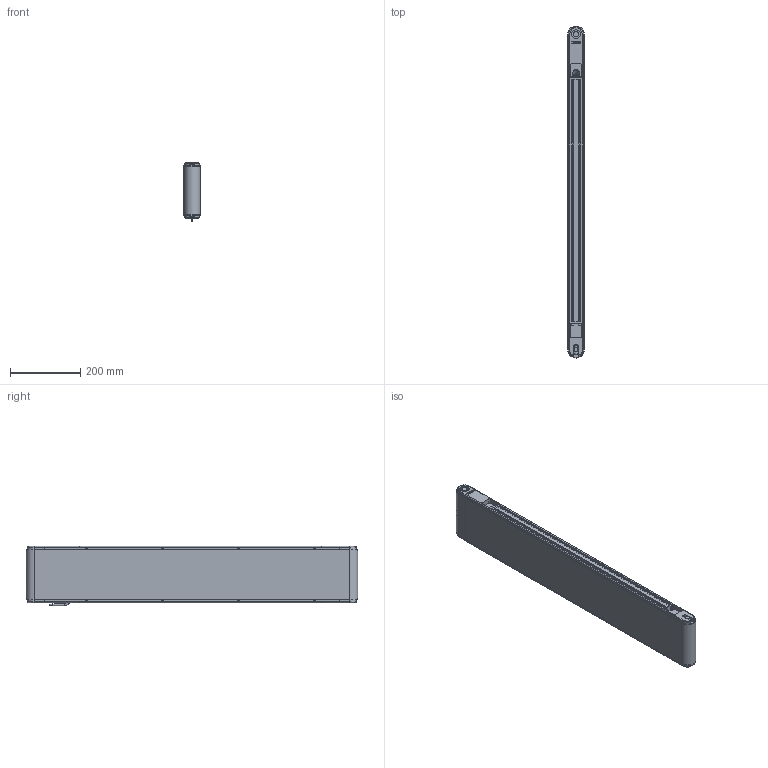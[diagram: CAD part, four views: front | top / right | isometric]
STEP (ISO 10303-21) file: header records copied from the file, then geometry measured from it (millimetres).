
FILE_DESCRIPTION(/* description */ (''),/* implementation_level */ '2;1');
FILE_NAME(/* name */ 'G:\DATEN\CAD\Förderband\Marketing\3D-Modelle (Standard)\FR-40-160\FR-40-160-900-K.stp',/* time_stamp */ '2019-05-08T09:08:46+02:00',/* author */ ('melanie.ochs'),/* organization */ (''),/* preprocessor_version */ 'ST-DEVELOPER v17',/* originating_system */ 'Autodesk Inventor 2019',/* authorisation */ '');
FILE_SCHEMA (('CONFIG_CONTROL_DESIGN'));
Length unit declared in the file: centimetre
Products named in the file (1): FR-40-160-900-K
Bounding box: 46.6 x 946.6 x 168.53 mm (x, y, z)
Volume: 2432822.2 mm3; surface area: 1072682.6 mm2
Topology: 6 solids, 25 shells, 1008 faces, 2750 edges, 1835 vertices
Faces by surface type: plane 515, cylinder 280, bspline 122, cone 66, torus 25
Full cylindrical faces by diameter (mm): 2 x2, 4 x6, 4.3 x4, 4.917 x1, 5 x11, 5.5 x8, 6 x4, 6.5 x1, 6.647 x3, 8 x4, 8.3 x8, 8.5 x8, 8.773 x1, 10 x1, 11 x1, 12 x5, 15 x2, 20 x4, 25 x2, 28 x4
Entity records: 34370 total; most frequent: CARTESIAN_POINT 8153, ORIENTED_EDGE 5470, DIRECTION 4952, EDGE_CURVE 2735, VERTEX_POINT 1835, AXIS2_PLACEMENT_3D 1722, LINE 1508, VECTOR 1508
